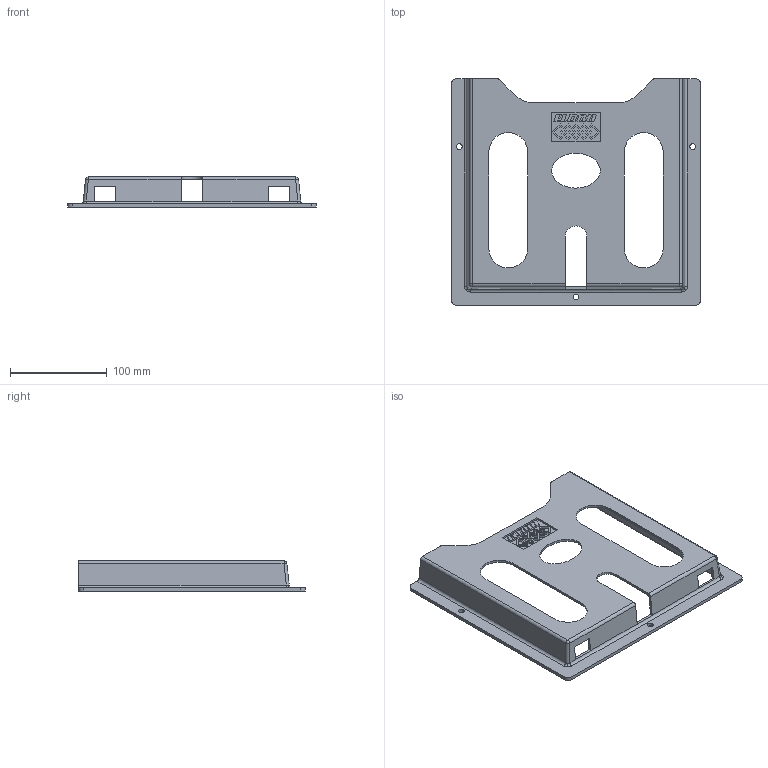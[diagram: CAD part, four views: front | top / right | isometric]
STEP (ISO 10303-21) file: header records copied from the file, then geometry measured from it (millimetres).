
FILE_DESCRIPTION (( 'STEP AP203' ), '1' );
FILE_NAME ('DRA04_V1.step', '2013-05-15T10:52:14', ( '' ), ( '' ), 'SwSTEP 2.0', 'SolidWorks 2011', '' );
FILE_SCHEMA (( 'CONFIG_CONTROL_DESIGN' ));
Length unit declared in the file: millimetre
Products named in the file (1): DRA04_V1
Bounding box: 257 x 234 x 31 mm (x, y, z)
Volume: 155368.1 mm3; surface area: 123150.8 mm2
Topology: 1 solids, 1 shells, 220 faces, 619 edges, 416 vertices
Faces by surface type: plane 181, cylinder 31, bspline 6, sphere 2
Entity records: 7198 total; most frequent: CARTESIAN_POINT 1380, ORIENTED_EDGE 1238, DIRECTION 1099, EDGE_CURVE 619, LINE 541, VECTOR 541, VERTEX_POINT 416, AXIS2_PLACEMENT_3D 279
